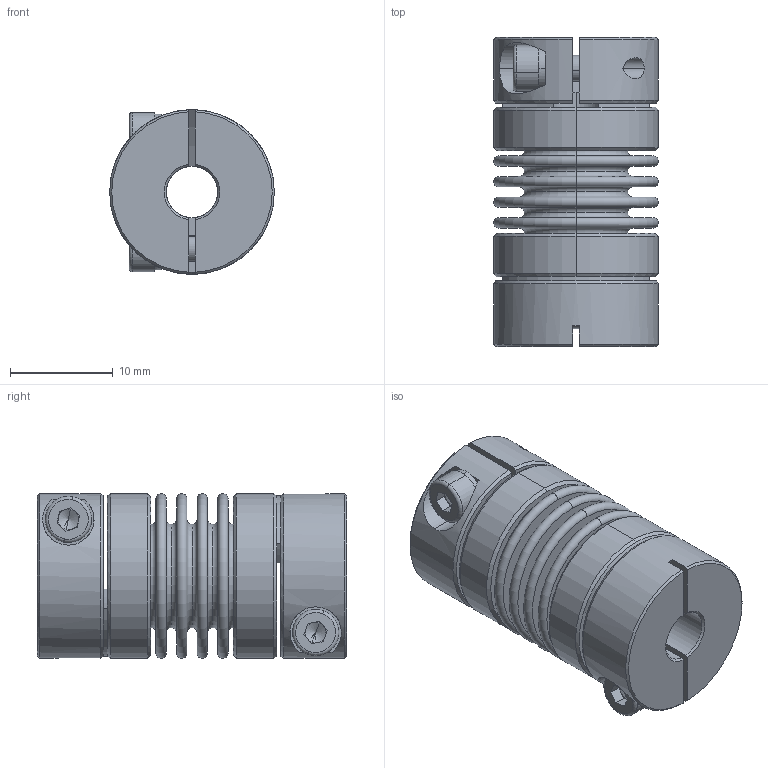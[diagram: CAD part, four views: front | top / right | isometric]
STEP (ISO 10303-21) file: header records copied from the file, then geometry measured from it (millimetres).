
FILE_DESCRIPTION (( 'STEP AP203' ), '1' );
FILE_NAME ('LB-B-D16L30-5-5.STEP', '2021-11-04T01:13:12', ( '' ), ( '' ), 'SwSTEP 2.0', 'SolidWorks 2018', '' );
FILE_SCHEMA (( 'CONFIG_CONTROL_DESIGN' ));
Length unit declared in the file: millimetre
Products named in the file (2): LB-B-D16L30-5-5; 零件1^LB-B-D16L30 波纹管联轴器-组装体
Assembly tree (1 placements, depth 2):
  LB-B-D16L30-5-5
    零件1^LB-B-D16L30 波纹管联轴器-组装体
Bounding box: 16 x 30.04 x 16 mm (x, y, z)
Volume: 3278.5 mm3; surface area: 6468.8 mm2
Topology: 1 solids, 1 shells, 254 faces, 586 edges, 362 vertices
Faces by surface type: plane 86, torus 68, cylinder 66, cone 34
Entity records: 7660 total; most frequent: CARTESIAN_POINT 1472, DIRECTION 1420, ORIENTED_EDGE 1164, AXIS2_PLACEMENT_3D 622, EDGE_CURVE 582, CIRCLE 364, VERTEX_POINT 362, EDGE_LOOP 296
